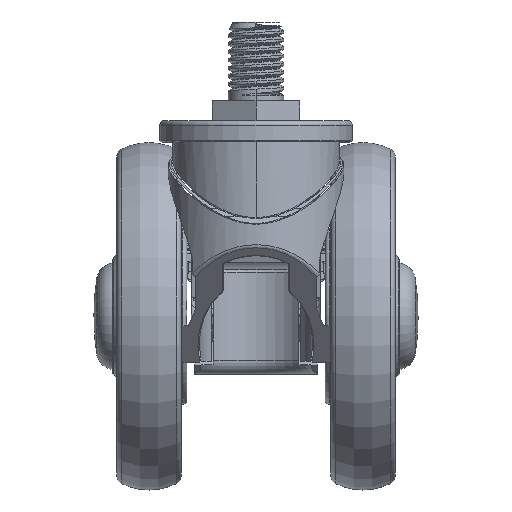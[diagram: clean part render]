
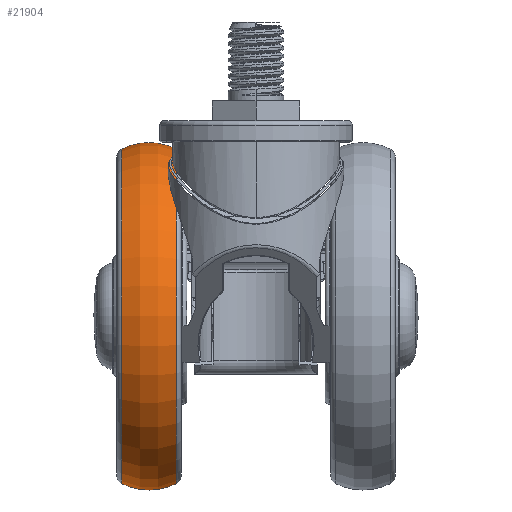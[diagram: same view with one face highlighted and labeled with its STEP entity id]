
A CAD part, top view. The second image highlights one B-rep face of the part: STEP entity #21904.
In plain terms, the highlighted toroidal (fillet/blend) face has major radius 24.25 mm and minor radius 13.25 mm.
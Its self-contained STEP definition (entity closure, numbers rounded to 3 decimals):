
#21754=CARTESIAN_POINT('',(-28.989,0.,0.));
#21755=DIRECTION('',(-1.,0.,0.));
#21756=DIRECTION('',(0.,-1.,0.));
#21757=AXIS2_PLACEMENT_3D('',#21754,#21755,#21756);
#21759=CARTESIAN_POINT('',(-17.211,0.,0.));
#21760=DIRECTION('',(-1.,0.,0.));
#21761=DIRECTION('',(0.,-1.,0.));
#21762=AXIS2_PLACEMENT_3D('',#21759,#21760,#21761);
#21799=CARTESIAN_POINT('',(-23.1,-24.25,0.));
#21800=DIRECTION('',(0.,0.,-1.));
#21801=DIRECTION('',(0.444,-0.896,0.));
#21802=AXIS2_PLACEMENT_3D('',#21799,#21800,#21801);
#21809=CARTESIAN_POINT('',(-23.1,24.25,0.));
#21810=DIRECTION('',(0.,0.,1.));
#21811=DIRECTION('',(0.444,0.896,0.));
#21812=AXIS2_PLACEMENT_3D('',#21809,#21810,#21811);
#21831=CARTESIAN_POINT('',(-28.989,-36.119,0.));
#21832=CARTESIAN_POINT('',(-28.989,36.119,0.));
#21833=VERTEX_POINT('',#21831);
#21834=VERTEX_POINT('',#21832);
#21835=CARTESIAN_POINT('',(-17.211,-36.119,
0.));
#21836=CARTESIAN_POINT('',(-17.211,36.119,0.));
#21837=VERTEX_POINT('',#21835);
#21838=VERTEX_POINT('',#21836);
#21890=CARTESIAN_POINT('',(-23.1,0.,0.));
#21891=DIRECTION('',(1.,0.,0.));
#21892=DIRECTION('',(0.,-1.,0.));
#21893=AXIS2_PLACEMENT_3D('',#21890,#21891,#21892);
#21894=TOROIDAL_SURFACE('',#21893,24.25,13.25);
#21896=ORIENTED_EDGE('',*,*,#21895,.T.);
#21898=ORIENTED_EDGE('',*,*,#21897,.F.);
#21899=ORIENTED_EDGE('',*,*,#21873,.F.);
#21901=ORIENTED_EDGE('',*,*,#21900,.T.);
#21902=EDGE_LOOP('',(#21896,#21898,#21899,#21901));
#21903=FACE_OUTER_BOUND('',#21902,.F.);
#21758=CIRCLE('',#21757,36.119);
#21763=CIRCLE('',#21762,36.119);
#21803=CIRCLE('',#21802,13.25);
#21813=CIRCLE('',#21812,13.25);
#21873=EDGE_CURVE('',#21837,#21838,#21763,.T.);
#21895=EDGE_CURVE('',#21833,#21834,#21758,.T.);
#21897=EDGE_CURVE('',#21838,#21834,#21813,.T.);
#21900=EDGE_CURVE('',#21837,#21833,#21803,.T.);
#21904=ADVANCED_FACE('',(#21903),#21894,.T.);
